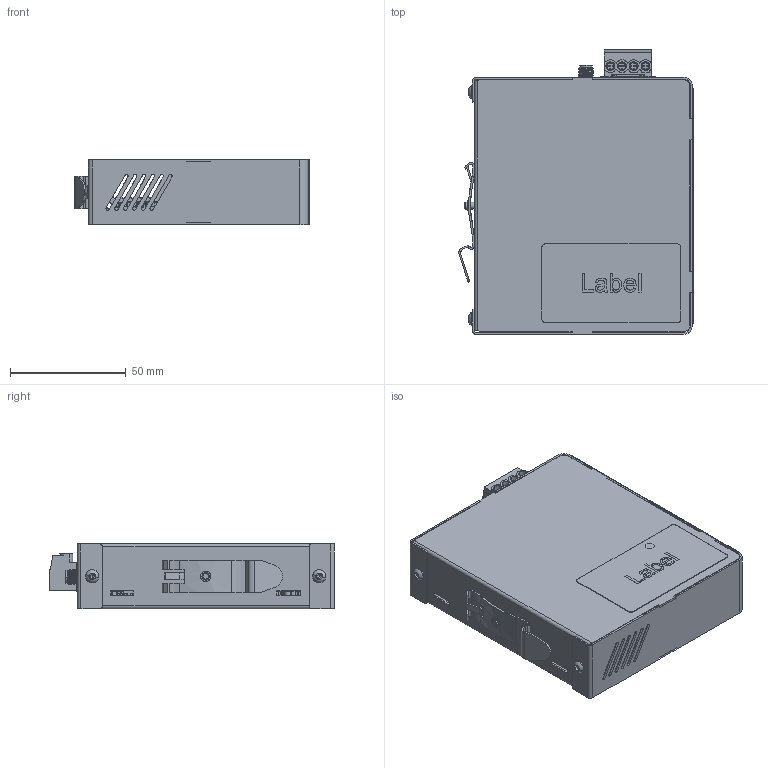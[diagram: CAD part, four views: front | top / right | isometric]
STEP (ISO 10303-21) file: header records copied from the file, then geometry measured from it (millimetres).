
FILE_DESCRIPTION (( 'STEP AP214' ), '1' );
FILE_NAME ('IXrouter 2.2 USER.STEP', '2017-06-28T21:51:41', ( 'EddiM' ), ( '' ), 'SwSTEP 2.0', 'SolidWorks 2013', '' );
FILE_SCHEMA (( 'AUTOMOTIVE_DESIGN' ));
Length unit declared in the file: millimetre
Products named in the file (33): X8; 1010026982-rev_C_3; Base_C5; X6_1; sl-smt_5.08hc_04_90g_3.2sn_bk_bx_1780200000_1; IXrouter 2.2 USER; X13_1; 1124502432_1; Extruded_1_5; Label_34x60; 956522480_1; Foil_Import_V2.2; Extruded_1_3; FM 4_TS35 0687900000; 723334544_1; IXrouter_2.2_ver1(VariantWith3G)_USER; Cylinder_1_2; User_Library-142-0701-301; 650185488_1; X4_1; Cylinder_1; 1026109424_1; socket button head cap screw_am_B18.3.4M - 3 x 0.5 x 5 SBHCS --N; Extruded_1_10; SIM card; 739130288_1; BLZP 5.08HC_04_180 SN BK BX 1943830000; Extruded_1_9; Cover_C5; X11_1; base_C5_Assy; 14379_1; blind standoff_pmm_PEM BSOS-3.5M3-6 ---N
Assembly tree (81 placements, depth 5):
  IXrouter 2.2 USER
    base_C5_Assy
      Base_C5
      blind standoff_pmm_PEM BSOS-3.5M3-6 ---N
    Cover_C5
    BLZP 5.08HC_04_180 SN BK BX 1943830000
    SIM card
    socket button head cap screw_am_B18.3.4M - 3 x 0.5 x 5 SBHCS --N  x4
    IXrouter_2.2_ver1(VariantWith3G)_USER
      X13_1
        650185488_1  x7
          Cylinder_1
        723334544_1  x2
          Cylinder_1_2
        956522480_1
          Extruded_1_3
        1124502432_1  x2
          Extruded_1_5
      X6_1
        sl-smt_5.08hc_04_90g_3.2sn_bk_bx_1780200000_1
      X8
        1010026982-rev_C_3
      X11_1
        14379_1
      X4_1
        650185488_1  x32
          Cylinder_1
        723334544_1  x2
          Cylinder_1_2
        739130288_1
          Extruded_1_9
        1124502432_1  x2
          Extruded_1_5
        1026109424_1  x3
          Extruded_1_10
      User_Library-142-0701-301
    FM 4_TS35 0687900000
    Foil_Import_V2.2
    Label_34x60
Bounding box: 101.16 x 122.86 x 28.33 mm (x, y, z)
Volume: 46988.1 mm3; surface area: 92370.9 mm2
Topology: 74 solids, 74 shells, 3057 faces, 8825 edges, 6062 vertices
Faces by surface type: plane 2131, cylinder 768, bspline 94, cone 48, torus 8, sphere 8
Entity records: 121778 total; most frequent: CARTESIAN_POINT 22061, ORIENTED_EDGE 16670, DIRECTION 14672, EDGE_CURVE 8335, VECTOR 6608, LINE 6608, VERTEX_POINT 5753, AXIS2_PLACEMENT_3D 4032
